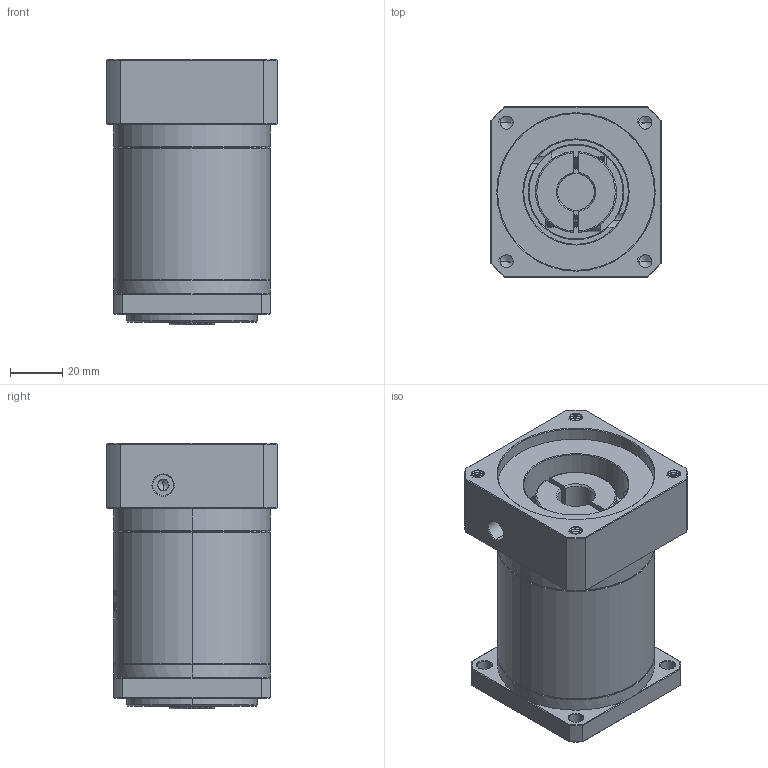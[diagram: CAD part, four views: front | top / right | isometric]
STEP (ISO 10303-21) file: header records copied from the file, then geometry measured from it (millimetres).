
FILE_DESCRIPTION (( 'STEP AP214' ), '1' );
FILE_NAME ('ZF60-K10-L2-14-60-75-M6.STEP', '2022-04-17T11:50:19', ( '' ), ( 'Microsoft' ), 'SwSTEP 2.0', 'SolidWorks 2016', '' );
FILE_SCHEMA (( 'AUTOMOTIVE_DESIGN' ));
Length unit declared in the file: millimetre
Products named in the file (1): ZF60-K10-L2-14-60-75-M6
Bounding box: 65 x 65 x 101.5 mm (x, y, z)
Volume: 275707.2 mm3; surface area: 49284.1 mm2
Topology: 6 solids, 6 shells, 1600 faces, 4318 edges, 2794 vertices
Faces by surface type: plane 742, cylinder 320, bspline 292, cone 228, torus 18
Entity records: 88286 total; most frequent: CARTESIAN_POINT 34020, ORIENTED_EDGE 8612, DIRECTION 6375, EDGE_CURVE 4306, VERTEX_POINT 2794, LINE 2217, VECTOR 2217, AXIS2_PLACEMENT_3D 2079
